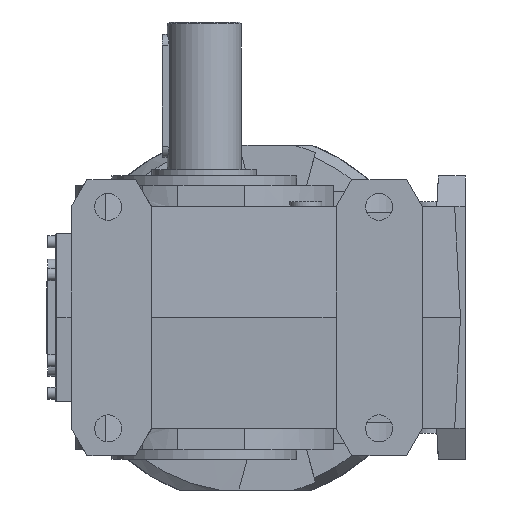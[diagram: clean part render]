
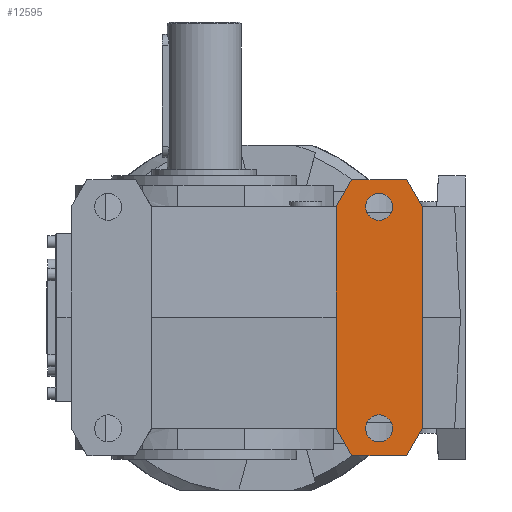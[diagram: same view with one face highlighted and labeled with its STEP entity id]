
A CAD part, left-side view. The second image highlights one B-rep face of the part: STEP entity #12595.
In plain terms, the highlighted planar face has unit normal (-1, 0, 0) as drawn and (1, 0, 0) by its records, which use the part's own axes.
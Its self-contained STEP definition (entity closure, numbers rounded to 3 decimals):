
#521=LINE('',#18380,#1801);
#525=LINE('',#18388,#1805);
#529=LINE('',#18394,#1809);
#557=LINE('',#18453,#1837);
#561=LINE('',#18461,#1841);
#568=LINE('',#18475,#1848);
#727=LINE('',#18874,#2007);
#728=LINE('',#18875,#2008);
#1801=VECTOR('',#14654,1000.);
#1805=VECTOR('',#14660,1000.);
#1809=VECTOR('',#14666,1000.);
#1837=VECTOR('',#14706,1000.);
#1841=VECTOR('',#14712,1000.);
#1848=VECTOR('',#14721,1000.);
#2007=VECTOR('',#15026,1000.);
#2008=VECTOR('',#15027,1000.);
#3437=ORIENTED_EDGE('',*,*,#6938,.F.);
#3438=ORIENTED_EDGE('',*,*,#6939,.F.);
#3439=ORIENTED_EDGE('',*,*,#6701,.F.);
#3440=ORIENTED_EDGE('',*,*,#6940,.T.);
#3441=ORIENTED_EDGE('',*,*,#6738,.F.);
#3442=ORIENTED_EDGE('',*,*,#6734,.F.);
#3443=ORIENTED_EDGE('',*,*,#6745,.F.);
#3444=ORIENTED_EDGE('',*,*,#6941,.F.);
#3445=ORIENTED_EDGE('',*,*,#6705,.F.);
#3446=ORIENTED_EDGE('',*,*,#6697,.T.);
#6697=EDGE_CURVE('',#8486,#8485,#521,.T.);
#6701=EDGE_CURVE('',#8488,#8485,#525,.T.);
#6705=EDGE_CURVE('',#8486,#8490,#529,.T.);
#6734=EDGE_CURVE('',#8514,#8515,#557,.T.);
#6738=EDGE_CURVE('',#8515,#8518,#561,.T.);
#6745=EDGE_CURVE('',#8523,#8514,#568,.T.);
#6938=EDGE_CURVE('',#8669,#8669,#9665,.F.);
#6939=EDGE_CURVE('',#8670,#8670,#9666,.F.);
#6940=EDGE_CURVE('',#8488,#8518,#727,.T.);
#6941=EDGE_CURVE('',#8490,#8523,#728,.T.);
#8485=VERTEX_POINT('',#18379);
#8486=VERTEX_POINT('',#18381);
#8488=VERTEX_POINT('',#18387);
#8490=VERTEX_POINT('',#18395);
#8514=VERTEX_POINT('',#18452);
#8515=VERTEX_POINT('',#18454);
#8518=VERTEX_POINT('',#18462);
#8523=VERTEX_POINT('',#18474);
#8669=VERTEX_POINT('',#18871);
#8670=VERTEX_POINT('',#18873);
#9665=CIRCLE('',#13408,11.);
#9666=CIRCLE('',#13409,11.);
#10101=EDGE_LOOP('',(#3437));
#10102=EDGE_LOOP('',(#3438));
#10103=EDGE_LOOP('',(#3439,#3440,#3441,#3442,#3443,#3444,#3445,#3446));
#11067=FACE_BOUND('',#10101,.T.);
#11068=FACE_BOUND('',#10102,.T.);
#11069=FACE_BOUND('',#10103,.T.);
#12046=PLANE('',#13407);
#12595=ADVANCED_FACE('',(#11067,#11068,#11069),#12046,.F.);
#13407=AXIS2_PLACEMENT_3D('',#18869,#15020,#15021);
#13408=AXIS2_PLACEMENT_3D('',#18870,#15022,#15023);
#13409=AXIS2_PLACEMENT_3D('',#18872,#15024,#15025);
#14654=DIRECTION('',(0.,-1.,0.));
#14660=DIRECTION('',(0.,0.5,0.866));
#14666=DIRECTION('',(0.,0.5,-0.866));
#14706=DIRECTION('',(0.,-1.,0.));
#14712=DIRECTION('',(0.,-0.5,0.866));
#14721=DIRECTION('',(0.,-0.5,-0.866));
#15020=DIRECTION('',(-1.,0.,0.));
#15021=DIRECTION('',(0.,0.,1.));
#15022=DIRECTION('',(-1.,0.,0.));
#15023=DIRECTION('',(0.,0.,1.));
#15024=DIRECTION('',(-1.,0.,0.));
#15025=DIRECTION('',(0.,0.,1.));
#15026=DIRECTION('',(0.,0.,-1.));
#15027=DIRECTION('',(0.,0.,-1.));
#18379=CARTESIAN_POINT('',(378.,-130.798,112.));
#18380=CARTESIAN_POINT('',(378.,141.5,112.));
#18381=CARTESIAN_POINT('',(378.,-86.202,112.));
#18387=CARTESIAN_POINT('',(378.,-143.5,90.));
#18388=CARTESIAN_POINT('',(378.,-143.5,90.));
#18394=CARTESIAN_POINT('',(378.,-86.202,112.));
#18395=CARTESIAN_POINT('',(378.,-73.5,90.));
#18452=CARTESIAN_POINT('',(378.,-86.202,-112.));
#18453=CARTESIAN_POINT('',(378.,141.5,-112.));
#18454=CARTESIAN_POINT('',(378.,-130.798,-112.));
#18461=CARTESIAN_POINT('',(378.,-130.798,-112.));
#18462=CARTESIAN_POINT('',(378.,-143.5,-90.));
#18474=CARTESIAN_POINT('',(378.,-73.5,-90.));
#18475=CARTESIAN_POINT('',(378.,-73.5,-90.));
#18869=CARTESIAN_POINT('',(378.,141.5,112.));
#18870=CARTESIAN_POINT('',(378.,-108.5,-90.));
#18871=CARTESIAN_POINT('',(378.,-108.5,-79.));
#18872=CARTESIAN_POINT('',(378.,-108.5,90.));
#18873=CARTESIAN_POINT('',(378.,-108.5,101.));
#18874=CARTESIAN_POINT('',(378.,-143.5,112.));
#18875=CARTESIAN_POINT('',(378.,-73.5,112.));
